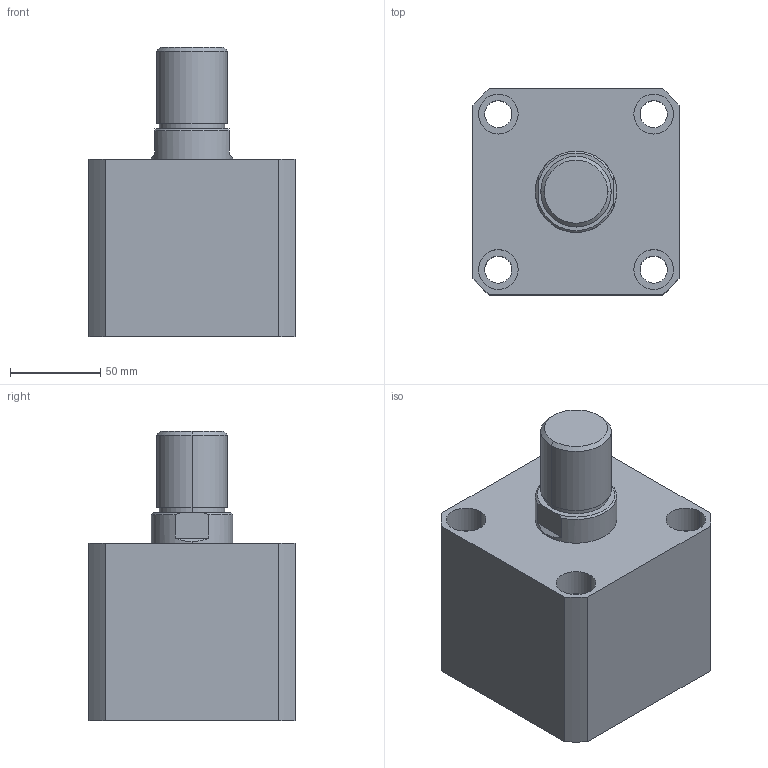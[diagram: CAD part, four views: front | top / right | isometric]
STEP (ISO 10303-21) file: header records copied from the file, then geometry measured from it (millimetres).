
FILE_DESCRIPTION (( 'STEP AP203' ), '1' );
FILE_NAME ('HTB-SDMB80-20W.STEP', '2019-10-09T06:00:06', ( '微软用户' ), ( '微软中国' ), 'SwSTEP 2.0', 'SolidWorks 2012', '' );
FILE_SCHEMA (( 'CONFIG_CONTROL_DESIGN' ));
Length unit declared in the file: millimetre
Products named in the file (3): HTB-SDMB80-20掛极; HTB-SDMB80-20W活塞杆; HTB-SDMB80-20W
Assembly tree (2 placements, depth 2):
  HTB-SDMB80-20W
    HTB-SDMB80-20掛极
    HTB-SDMB80-20W活塞杆
Bounding box: 114 x 114 x 160 mm (x, y, z)
Volume: 1174198.9 mm3; surface area: 145803.9 mm2
Topology: 2 solids, 2 shells, 141 faces, 337 edges, 222 vertices
Faces by surface type: plane 67, cylinder 48, bspline 16, torus 6, cone 4
Entity records: 5180 total; most frequent: CARTESIAN_POINT 1597, ORIENTED_EDGE 674, DIRECTION 669, EDGE_CURVE 337, AXIS2_PLACEMENT_3D 242, VERTEX_POINT 222, LINE 185, VECTOR 185
